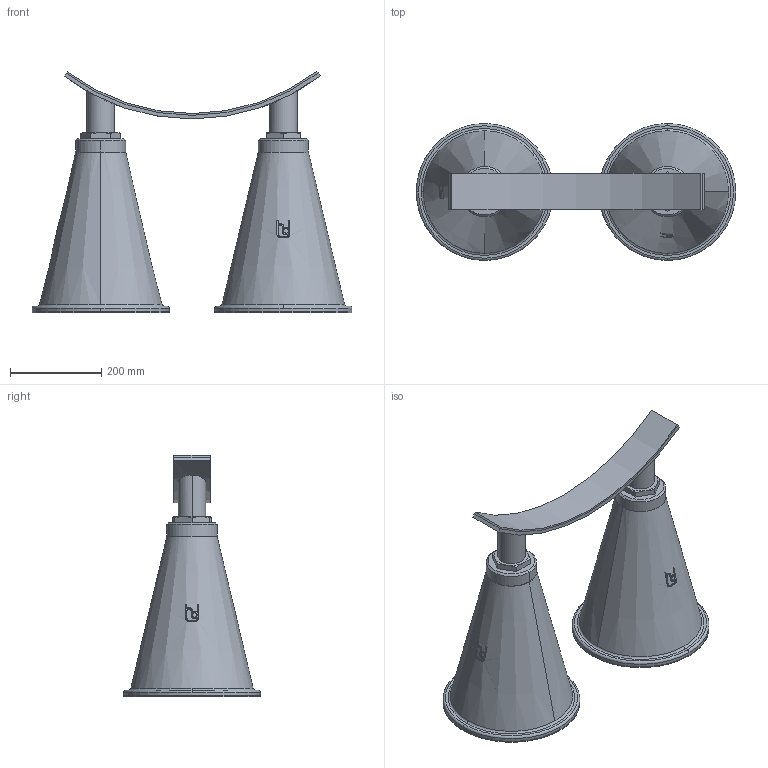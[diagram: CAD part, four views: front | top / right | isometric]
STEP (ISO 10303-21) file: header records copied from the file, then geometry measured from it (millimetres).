
FILE_DESCRIPTION(('STEP AP214'),'1');
FILE_NAME('RSRFB-DUO_DN900.stp','2018-06-26T14:05:17',(' '),(' '),'Spatial InterOp 3D',' ',' ');
FILE_SCHEMA(('automotive_design'));
Length unit declared in the file: millimetre
Products named in the file (10): 1; 2; 3; 4; 5; 6; 7; 8; 9; 10
Bounding box: 700 x 300 x 528.06 mm (x, y, z)
Volume: 25319103.1 mm3; surface area: 1361013.7 mm2
Topology: 10 solids, 14 shells, 214 faces, 506 edges, 326 vertices
Faces by surface type: plane 84, cylinder 80, cone 42, torus 8
Entity records: 9573 total; most frequent: CARTESIAN_POINT 2730, DIRECTION 1046, ORIENTED_EDGE 1012, EDGE_CURVE 506, AXIS2_PLACEMENT_3D 410, VERTEX_POINT 326, EDGE_LOOP 232, LINE 226
